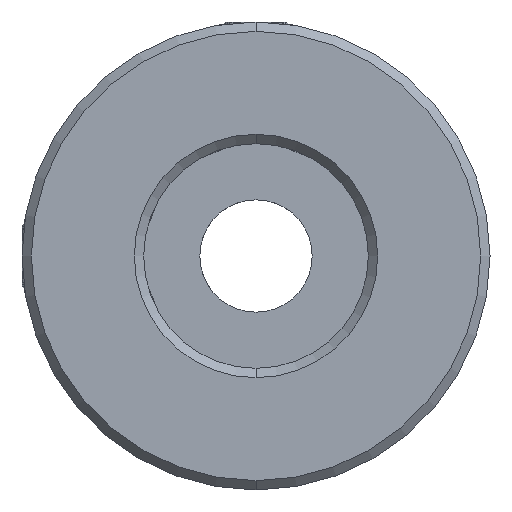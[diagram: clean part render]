
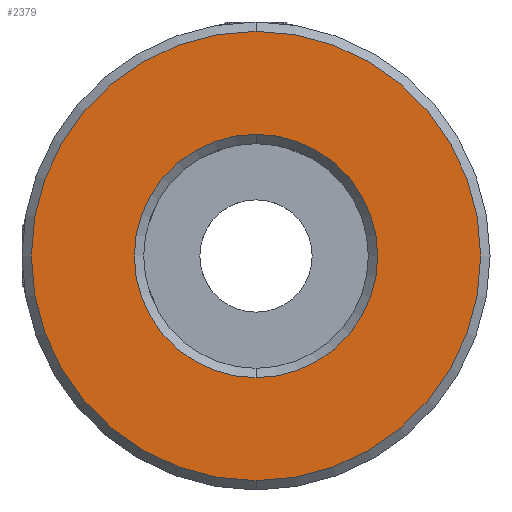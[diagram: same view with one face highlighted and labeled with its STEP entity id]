
A CAD part, front view. The second image highlights one B-rep face of the part: STEP entity #2379.
In plain terms, the highlighted planar face has unit normal (0, -1, 0).
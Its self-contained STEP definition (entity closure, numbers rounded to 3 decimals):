
#51 = DIRECTION ( 'NONE',  ( 0., 0., 1. ) ) ;
#63 = DIRECTION ( 'NONE',  ( 0., 1., 0. ) ) ;
#78 = DIRECTION ( 'NONE',  ( 0., 0., 1. ) ) ;
#153 = DIRECTION ( 'NONE',  ( 0., 0., 1. ) ) ;
#164 = ORIENTED_EDGE ( 'NONE', *, *, #2869, .T. ) ;
#251 = AXIS2_PLACEMENT_3D ( 'NONE', #2078, #3294, #1570 ) ;
#320 = CIRCLE ( 'NONE', #619, 6.5 ) ;
#436 = CARTESIAN_POINT ( 'NONE',  ( -10.188, -0.277, 0.046 ) ) ;
#464 = DIRECTION ( 'NONE',  ( 0., 1., 0. ) ) ;
#619 = AXIS2_PLACEMENT_3D ( 'NONE', #2191, #464, #153 ) ;
#749 = ORIENTED_EDGE ( 'NONE', *, *, #2401, .T. ) ;
#823 = VERTEX_POINT ( 'NONE', #2412 ) ;
#883 = EDGE_CURVE ( 'NONE', #3497, #823, #1875, .T. ) ;
#893 = EDGE_LOOP ( 'NONE', ( #1301, #2852 ) ) ;
#908 = AXIS2_PLACEMENT_3D ( 'NONE', #436, #1589, #1341 ) ;
#932 = PLANE ( 'NONE',  #2833 ) ;
#1209 = CARTESIAN_POINT ( 'NONE',  ( -10.188, -0.277, 0.046 ) ) ;
#1301 = ORIENTED_EDGE ( 'NONE', *, *, #883, .T. ) ;
#1307 = CARTESIAN_POINT ( 'NONE',  ( -10.188, -0.277, 6.546 ) ) ;
#1341 = DIRECTION ( 'NONE',  ( 0., 0., 1. ) ) ;
#1472 = FACE_OUTER_BOUND ( 'NONE', #893, .T. ) ;
#1570 = DIRECTION ( 'NONE',  ( 0., 0., 1. ) ) ;
#1589 = DIRECTION ( 'NONE',  ( 0., -1., 0. ) ) ;
#1737 = CARTESIAN_POINT ( 'NONE',  ( -10.188, -0.277, 12.046 ) ) ;
#1804 = CARTESIAN_POINT ( 'NONE',  ( -10.188, -0.277, -6.454 ) ) ;
#1875 = CIRCLE ( 'NONE', #251, 12. ) ;
#2060 = VERTEX_POINT ( 'NONE', #1307 ) ;
#2078 = CARTESIAN_POINT ( 'NONE',  ( -10.188, -0.277, 0.046 ) ) ;
#2111 = EDGE_CURVE ( 'NONE', #823, #3497, #2764, .T. ) ;
#2156 = EDGE_LOOP ( 'NONE', ( #749, #164 ) ) ;
#2191 = CARTESIAN_POINT ( 'NONE',  ( -10.188, -0.277, 0.046 ) ) ;
#2379 = ADVANCED_FACE ( 'NONE', ( #1472, #2603 ), #932, .F. ) ;
#2401 = EDGE_CURVE ( 'NONE', #2779, #2060, #3391, .T. ) ;
#2412 = CARTESIAN_POINT ( 'NONE',  ( -10.188, -0.277, -11.954 ) ) ;
#2603 = FACE_BOUND ( 'NONE', #2156, .T. ) ;
#2614 = CARTESIAN_POINT ( 'NONE',  ( -10.188, -0.277, 0.046 ) ) ;
#2621 = DIRECTION ( 'NONE',  ( 0., 1., 0. ) ) ;
#2764 = CIRCLE ( 'NONE', #908, 12. ) ;
#2779 = VERTEX_POINT ( 'NONE', #1804 ) ;
#2833 = AXIS2_PLACEMENT_3D ( 'NONE', #1209, #2621, #51 ) ;
#2852 = ORIENTED_EDGE ( 'NONE', *, *, #2111, .T. ) ;
#2869 = EDGE_CURVE ( 'NONE', #2060, #2779, #320, .T. ) ;
#3275 = AXIS2_PLACEMENT_3D ( 'NONE', #2614, #63, #78 ) ;
#3294 = DIRECTION ( 'NONE',  ( 0., -1., 0. ) ) ;
#3391 = CIRCLE ( 'NONE', #3275, 6.5 ) ;
#3497 = VERTEX_POINT ( 'NONE', #1737 ) ;
